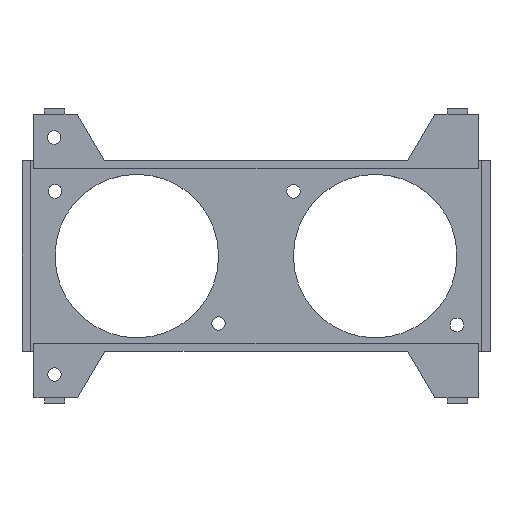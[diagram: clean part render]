
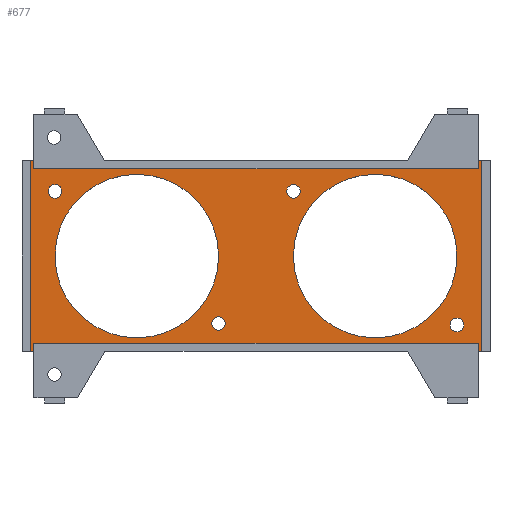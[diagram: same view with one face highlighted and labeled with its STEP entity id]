
A CAD part, top view. The second image highlights one B-rep face of the part: STEP entity #677.
In plain terms, the highlighted planar face has unit normal (0, 0, 1).
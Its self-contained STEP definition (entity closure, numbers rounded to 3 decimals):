
#229 = VERTEX_POINT('',#230);
#230 = CARTESIAN_POINT('',(-4.507,-9.906,1.2));
#236 = EDGE_CURVE('',#229,#229,#237,.T.);
#237 = CIRCLE('',#238,1.);
#238 = AXIS2_PLACEMENT_3D('',#239,#240,#241);
#239 = CARTESIAN_POINT('',(-5.507,-9.906,1.2));
#240 = DIRECTION('',(0.,0.,-1.));
#241 = DIRECTION('',(1.,0.,0.));
#254 = VERTEX_POINT('',#255);
#255 = CARTESIAN_POINT('',(30.485,-10.093,1.2));
#261 = EDGE_CURVE('',#254,#254,#262,.T.);
#262 = CIRCLE('',#263,1.);
#263 = AXIS2_PLACEMENT_3D('',#264,#265,#266);
#264 = CARTESIAN_POINT('',(29.485,-10.093,1.2));
#265 = DIRECTION('',(0.,0.,-1.));
#266 = DIRECTION('',(1.,0.,0.));
#279 = VERTEX_POINT('',#280);
#280 = CARTESIAN_POINT('',(-5.5,0.,1.2));
#286 = EDGE_CURVE('',#279,#279,#287,.T.);
#287 = CIRCLE('',#288,12.);
#288 = AXIS2_PLACEMENT_3D('',#289,#290,#291);
#289 = CARTESIAN_POINT('',(-17.5,0.,1.2));
#290 = DIRECTION('',(0.,0.,-1.));
#291 = DIRECTION('',(1.,0.,0.));
#304 = VERTEX_POINT('',#305);
#305 = CARTESIAN_POINT('',(-28.5,9.5,1.2));
#311 = EDGE_CURVE('',#304,#304,#312,.T.);
#312 = CIRCLE('',#313,1.);
#313 = AXIS2_PLACEMENT_3D('',#314,#315,#316);
#314 = CARTESIAN_POINT('',(-29.5,9.5,1.2));
#315 = DIRECTION('',(0.,0.,-1.));
#316 = DIRECTION('',(1.,0.,0.));
#329 = VERTEX_POINT('',#330);
#330 = CARTESIAN_POINT('',(29.5,0.,1.2));
#336 = EDGE_CURVE('',#329,#329,#337,.T.);
#337 = CIRCLE('',#338,12.);
#338 = AXIS2_PLACEMENT_3D('',#339,#340,#341);
#339 = CARTESIAN_POINT('',(17.5,0.,1.2));
#340 = DIRECTION('',(0.,0.,-1.));
#341 = DIRECTION('',(1.,0.,0.));
#354 = VERTEX_POINT('',#355);
#355 = CARTESIAN_POINT('',(6.5,9.5,1.2));
#361 = EDGE_CURVE('',#354,#354,#362,.T.);
#362 = CIRCLE('',#363,1.);
#363 = AXIS2_PLACEMENT_3D('',#364,#365,#366);
#364 = CARTESIAN_POINT('',(5.5,9.5,1.2));
#365 = DIRECTION('',(0.,0.,-1.));
#366 = DIRECTION('',(1.,0.,0.));
#427 = VERTEX_POINT('',#428);
#428 = CARTESIAN_POINT('',(-33.15,14.,1.2));
#434 = EDGE_CURVE('',#435,#427,#437,.T.);
#435 = VERTEX_POINT('',#436);
#436 = CARTESIAN_POINT('',(-32.65,14.,1.2));
#437 = LINE('',#438,#439);
#438 = CARTESIAN_POINT('',(34.35,14.,1.2));
#439 = VECTOR('',#440,1.);
#440 = DIRECTION('',(-1.,0.,0.));
#491 = VERTEX_POINT('',#492);
#492 = CARTESIAN_POINT('',(32.65,14.,1.2));
#498 = EDGE_CURVE('',#499,#491,#501,.T.);
#499 = VERTEX_POINT('',#500);
#500 = CARTESIAN_POINT('',(33.15,14.,1.2));
#501 = LINE('',#502,#503);
#502 = CARTESIAN_POINT('',(34.35,14.,1.2));
#503 = VECTOR('',#504,1.);
#504 = DIRECTION('',(-1.,0.,0.));
#547 = VERTEX_POINT('',#548);
#548 = CARTESIAN_POINT('',(33.15,-14.,1.2));
#554 = EDGE_CURVE('',#555,#547,#557,.T.);
#555 = VERTEX_POINT('',#556);
#556 = CARTESIAN_POINT('',(32.65,-14.,1.2));
#557 = LINE('',#558,#559);
#558 = CARTESIAN_POINT('',(-34.35,-14.,1.2));
#559 = VECTOR('',#560,1.);
#560 = DIRECTION('',(1.,0.,0.));
#627 = VERTEX_POINT('',#628);
#628 = CARTESIAN_POINT('',(-32.65,-14.,1.2));
#634 = EDGE_CURVE('',#635,#627,#637,.T.);
#635 = VERTEX_POINT('',#636);
#636 = CARTESIAN_POINT('',(-33.15,-14.,1.2));
#637 = LINE('',#638,#639);
#638 = CARTESIAN_POINT('',(-34.35,-14.,1.2));
#639 = VECTOR('',#640,1.);
#640 = DIRECTION('',(1.,0.,0.));
#677 = ADVANCED_FACE('',(#678,#740,#743,#746,#749,#752,#755),#758,.T.);
#678 = FACE_BOUND('',#679,.T.);
#679 = EDGE_LOOP('',(#680,#686,#687,#695,#703,#709,#710,#716,#717,#725,
    #733,#739));
#680 = ORIENTED_EDGE('',*,*,#681,.F.);
#681 = EDGE_CURVE('',#635,#427,#682,.T.);
#682 = LINE('',#683,#684);
#683 = CARTESIAN_POINT('',(-33.15,-14.,1.2));
#684 = VECTOR('',#685,1.);
#685 = DIRECTION('',(0.,1.,0.));
#686 = ORIENTED_EDGE('',*,*,#634,.T.);
#687 = ORIENTED_EDGE('',*,*,#688,.F.);
#688 = EDGE_CURVE('',#689,#627,#691,.T.);
#689 = VERTEX_POINT('',#690);
#690 = CARTESIAN_POINT('',(-32.65,-12.8,1.2));
#691 = LINE('',#692,#693);
#692 = CARTESIAN_POINT('',(-32.65,-12.8,1.2));
#693 = VECTOR('',#694,1.);
#694 = DIRECTION('',(0.,-1.,0.));
#695 = ORIENTED_EDGE('',*,*,#696,.F.);
#696 = EDGE_CURVE('',#697,#689,#699,.T.);
#697 = VERTEX_POINT('',#698);
#698 = CARTESIAN_POINT('',(32.65,-12.8,1.2));
#699 = LINE('',#700,#701);
#700 = CARTESIAN_POINT('',(32.65,-12.8,1.2));
#701 = VECTOR('',#702,1.);
#702 = DIRECTION('',(-1.,0.,0.));
#703 = ORIENTED_EDGE('',*,*,#704,.F.);
#704 = EDGE_CURVE('',#555,#697,#705,.T.);
#705 = LINE('',#706,#707);
#706 = CARTESIAN_POINT('',(32.65,-14.,1.2));
#707 = VECTOR('',#708,1.);
#708 = DIRECTION('',(0.,1.,0.));
#709 = ORIENTED_EDGE('',*,*,#554,.T.);
#710 = ORIENTED_EDGE('',*,*,#711,.F.);
#711 = EDGE_CURVE('',#499,#547,#712,.T.);
#712 = LINE('',#713,#714);
#713 = CARTESIAN_POINT('',(33.15,14.,1.2));
#714 = VECTOR('',#715,1.);
#715 = DIRECTION('',(0.,-1.,0.));
#716 = ORIENTED_EDGE('',*,*,#498,.T.);
#717 = ORIENTED_EDGE('',*,*,#718,.F.);
#718 = EDGE_CURVE('',#719,#491,#721,.T.);
#719 = VERTEX_POINT('',#720);
#720 = CARTESIAN_POINT('',(32.65,12.8,1.2));
#721 = LINE('',#722,#723);
#722 = CARTESIAN_POINT('',(32.65,12.8,1.2));
#723 = VECTOR('',#724,1.);
#724 = DIRECTION('',(0.,1.,0.));
#725 = ORIENTED_EDGE('',*,*,#726,.F.);
#726 = EDGE_CURVE('',#727,#719,#729,.T.);
#727 = VERTEX_POINT('',#728);
#728 = CARTESIAN_POINT('',(-32.65,12.8,1.2));
#729 = LINE('',#730,#731);
#730 = CARTESIAN_POINT('',(-32.65,12.8,1.2));
#731 = VECTOR('',#732,1.);
#732 = DIRECTION('',(1.,0.,0.));
#733 = ORIENTED_EDGE('',*,*,#734,.F.);
#734 = EDGE_CURVE('',#435,#727,#735,.T.);
#735 = LINE('',#736,#737);
#736 = CARTESIAN_POINT('',(-32.65,14.,1.2));
#737 = VECTOR('',#738,1.);
#738 = DIRECTION('',(0.,-1.,0.));
#739 = ORIENTED_EDGE('',*,*,#434,.T.);
#740 = FACE_BOUND('',#741,.T.);
#741 = EDGE_LOOP('',(#742));
#742 = ORIENTED_EDGE('',*,*,#236,.T.);
#743 = FACE_BOUND('',#744,.T.);
#744 = EDGE_LOOP('',(#745));
#745 = ORIENTED_EDGE('',*,*,#261,.T.);
#746 = FACE_BOUND('',#747,.T.);
#747 = EDGE_LOOP('',(#748));
#748 = ORIENTED_EDGE('',*,*,#286,.T.);
#749 = FACE_BOUND('',#750,.T.);
#750 = EDGE_LOOP('',(#751));
#751 = ORIENTED_EDGE('',*,*,#311,.T.);
#752 = FACE_BOUND('',#753,.T.);
#753 = EDGE_LOOP('',(#754));
#754 = ORIENTED_EDGE('',*,*,#336,.T.);
#755 = FACE_BOUND('',#756,.T.);
#756 = EDGE_LOOP('',(#757));
#757 = ORIENTED_EDGE('',*,*,#361,.T.);
#758 = PLANE('',#759);
#759 = AXIS2_PLACEMENT_3D('',#760,#761,#762);
#760 = CARTESIAN_POINT('',(0.,0.,1.2));
#761 = DIRECTION('',(0.,0.,1.));
#762 = DIRECTION('',(1.,0.,0.));
